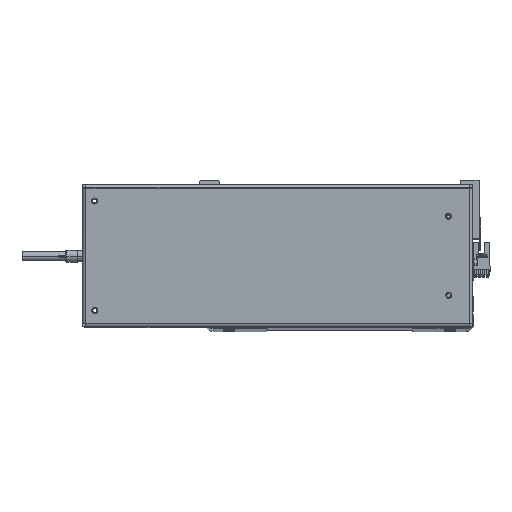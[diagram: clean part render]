
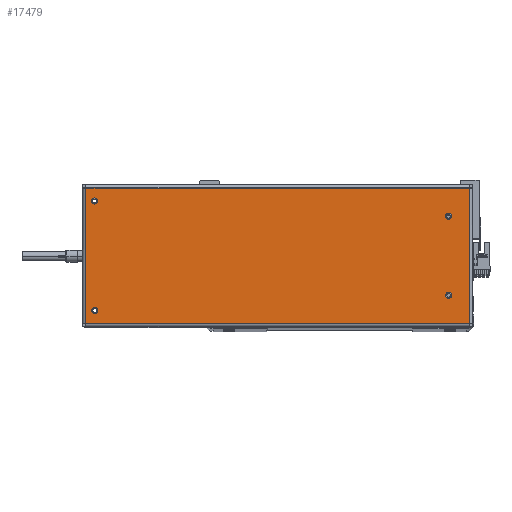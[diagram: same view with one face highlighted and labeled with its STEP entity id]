
A CAD part, top view. The second image highlights one B-rep face of the part: STEP entity #17479.
In plain terms, the highlighted planar face has unit normal (0, 0, 1).
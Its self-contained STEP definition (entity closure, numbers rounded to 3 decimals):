
#117 = EDGE_LOOP ( 'NONE', ( #26092, #19365 ) ) ;
#652 = DIRECTION ( 'NONE',  ( 0., -1., 0. ) ) ;
#727 = EDGE_LOOP ( 'NONE', ( #22752, #24264 ) ) ;
#971 = EDGE_CURVE ( 'NONE', #5345, #9199, #35661, .T. ) ;
#1350 = DIRECTION ( 'NONE',  ( 1., 0., 0. ) ) ;
#1364 = EDGE_CURVE ( 'NONE', #10330, #31053, #33187, .T. ) ;
#1560 = VERTEX_POINT ( 'NONE', #34394 ) ;
#1793 = CARTESIAN_POINT ( 'NONE',  ( 150.5, -45., 0. ) ) ;
#1839 = FACE_BOUND ( 'NONE', #21995, .T. ) ;
#2256 = EDGE_CURVE ( 'NONE', #9199, #5345, #27306, .T. ) ;
#3873 = CARTESIAN_POINT ( 'NONE',  ( 157.7, 58.5, 0. ) ) ;
#4072 = EDGE_CURVE ( 'NONE', #32882, #18946, #34296, .T. ) ;
#4257 = FACE_OUTER_BOUND ( 'NONE', #35158, .T. ) ;
#4297 = CARTESIAN_POINT ( 'NONE',  ( -157.6, 55.6, 0. ) ) ;
#5164 = LINE ( 'NONE', #6363, #11973 ) ;
#5345 = VERTEX_POINT ( 'NONE', #11635 ) ;
#5385 = VERTEX_POINT ( 'NONE', #35380 ) ;
#5607 = AXIS2_PLACEMENT_3D ( 'NONE', #3873, #25727, #22430 ) ;
#6274 = EDGE_CURVE ( 'NONE', #18946, #32882, #19625, .T. ) ;
#6363 = CARTESIAN_POINT ( 'NONE',  ( -157.7, -55.6, 0. ) ) ;
#7329 = DIRECTION ( 'NONE',  ( 0., 0., 1. ) ) ;
#7706 = VECTOR ( 'NONE', #32453, 1000. ) ;
#8120 = CARTESIAN_POINT ( 'NONE',  ( 150.5, 45., 0. ) ) ;
#8229 = CARTESIAN_POINT ( 'NONE',  ( 157.6, -55.6, 0. ) ) ;
#8232 = AXIS2_PLACEMENT_3D ( 'NONE', #8120, #20264, #1350 ) ;
#8594 = EDGE_CURVE ( 'NONE', #13478, #5385, #35084, .T. ) ;
#8665 = LINE ( 'NONE', #26368, #7706 ) ;
#9031 = CARTESIAN_POINT ( 'NONE',  ( -140.5, 32.5, 0. ) ) ;
#9199 = VERTEX_POINT ( 'NONE', #23833 ) ;
#9900 = CARTESIAN_POINT ( 'NONE',  ( -138., -32.5, 0. ) ) ;
#10121 = FACE_BOUND ( 'NONE', #727, .T. ) ;
#10330 = VERTEX_POINT ( 'NONE', #19416 ) ;
#10749 = EDGE_CURVE ( 'NONE', #1560, #23268, #25685, .T. ) ;
#11289 = ORIENTED_EDGE ( 'NONE', *, *, #33391, .F. ) ;
#11301 = EDGE_CURVE ( 'NONE', #19866, #22175, #11913, .T. ) ;
#11635 = CARTESIAN_POINT ( 'NONE',  ( 148., -45., 0. ) ) ;
#11759 = DIRECTION ( 'NONE',  ( 0., 0., 1. ) ) ;
#11913 = LINE ( 'NONE', #4297, #37789 ) ;
#11973 = VECTOR ( 'NONE', #15766, 1000. ) ;
#12809 = EDGE_LOOP ( 'NONE', ( #11289, #19843 ) ) ;
#13386 = DIRECTION ( 'NONE',  ( 1., 0., 0. ) ) ;
#13478 = VERTEX_POINT ( 'NONE', #37844 ) ;
#13713 = DIRECTION ( 'NONE',  ( 1., 0., 0. ) ) ;
#14104 = CARTESIAN_POINT ( 'NONE',  ( -157.6, -55.6, 0. ) ) ;
#14429 = DIRECTION ( 'NONE',  ( 0., 0., 1. ) ) ;
#15453 = DIRECTION ( 'NONE',  ( 0., 0., 1. ) ) ;
#15766 = DIRECTION ( 'NONE',  ( 1., 0., 0. ) ) ;
#16898 = EDGE_CURVE ( 'NONE', #5385, #19866, #8665, .T. ) ;
#17479 = ADVANCED_FACE ( 'NONE', ( #10121, #31084, #1839, #22844, #4257 ), #22156, .F. ) ;
#18096 = EDGE_CURVE ( 'NONE', #22175, #13478, #5164, .T. ) ;
#18297 = DIRECTION ( 'NONE',  ( 1., 0., 0. ) ) ;
#18422 = DIRECTION ( 'NONE',  ( 0., 1., 0. ) ) ;
#18927 = AXIS2_PLACEMENT_3D ( 'NONE', #9031, #11759, #21321 ) ;
#18935 = EDGE_CURVE ( 'NONE', #31053, #10330, #31484, .T. ) ;
#18946 = VERTEX_POINT ( 'NONE', #9900 ) ;
#19059 = AXIS2_PLACEMENT_3D ( 'NONE', #19258, #37795, #13386 ) ;
#19258 = CARTESIAN_POINT ( 'NONE',  ( -140.5, -32.5, 0. ) ) ;
#19365 = ORIENTED_EDGE ( 'NONE', *, *, #18935, .F. ) ;
#19416 = CARTESIAN_POINT ( 'NONE',  ( 153., 45., 0. ) ) ;
#19455 = DIRECTION ( 'NONE',  ( 0., 0., 1. ) ) ;
#19625 = CIRCLE ( 'NONE', #30613, 2.5 ) ;
#19843 = ORIENTED_EDGE ( 'NONE', *, *, #10749, .F. ) ;
#19866 = VERTEX_POINT ( 'NONE', #25110 ) ;
#20063 = AXIS2_PLACEMENT_3D ( 'NONE', #33928, #24599, #31237 ) ;
#20264 = DIRECTION ( 'NONE',  ( 0., 0., 1. ) ) ;
#21061 = AXIS2_PLACEMENT_3D ( 'NONE', #31456, #19455, #31323 ) ;
#21321 = DIRECTION ( 'NONE',  ( 1., 0., 0. ) ) ;
#21995 = EDGE_LOOP ( 'NONE', ( #32165, #26629 ) ) ;
#22156 = PLANE ( 'NONE',  #5607 ) ;
#22175 = VERTEX_POINT ( 'NONE', #14104 ) ;
#22430 = DIRECTION ( 'NONE',  ( -1., 0., 0. ) ) ;
#22752 = ORIENTED_EDGE ( 'NONE', *, *, #6274, .F. ) ;
#22844 = FACE_BOUND ( 'NONE', #117, .T. ) ;
#22932 = VECTOR ( 'NONE', #18422, 1000. ) ;
#23268 = VERTEX_POINT ( 'NONE', #37009 ) ;
#23833 = CARTESIAN_POINT ( 'NONE',  ( 153., -45., 0. ) ) ;
#24264 = ORIENTED_EDGE ( 'NONE', *, *, #4072, .F. ) ;
#24423 = CARTESIAN_POINT ( 'NONE',  ( 148., 45., 0. ) ) ;
#24599 = DIRECTION ( 'NONE',  ( 0., 0., 1. ) ) ;
#24856 = ORIENTED_EDGE ( 'NONE', *, *, #18096, .T. ) ;
#25110 = CARTESIAN_POINT ( 'NONE',  ( -157.6, 55.6, 0. ) ) ;
#25685 = CIRCLE ( 'NONE', #20063, 2.5 ) ;
#25727 = DIRECTION ( 'NONE',  ( 0., 0., -1. ) ) ;
#26092 = ORIENTED_EDGE ( 'NONE', *, *, #1364, .F. ) ;
#26368 = CARTESIAN_POINT ( 'NONE',  ( 157.7, 55.6, 0. ) ) ;
#26629 = ORIENTED_EDGE ( 'NONE', *, *, #971, .F. ) ;
#26702 = ORIENTED_EDGE ( 'NONE', *, *, #11301, .T. ) ;
#27306 = CIRCLE ( 'NONE', #21061, 2.5 ) ;
#27334 = AXIS2_PLACEMENT_3D ( 'NONE', #1793, #14429, #29833 ) ;
#27560 = CARTESIAN_POINT ( 'NONE',  ( -143., -32.5, 0. ) ) ;
#29403 = CARTESIAN_POINT ( 'NONE',  ( 150.5, 45., 0. ) ) ;
#29833 = DIRECTION ( 'NONE',  ( 1., 0., 0. ) ) ;
#30613 = AXIS2_PLACEMENT_3D ( 'NONE', #31126, #15453, #18297 ) ;
#31053 = VERTEX_POINT ( 'NONE', #24423 ) ;
#31084 = FACE_BOUND ( 'NONE', #12809, .T. ) ;
#31126 = CARTESIAN_POINT ( 'NONE',  ( -140.5, -32.5, 0. ) ) ;
#31237 = DIRECTION ( 'NONE',  ( 1., 0., 0. ) ) ;
#31323 = DIRECTION ( 'NONE',  ( 1., 0., 0. ) ) ;
#31456 = CARTESIAN_POINT ( 'NONE',  ( 150.5, -45., 0. ) ) ;
#31484 = CIRCLE ( 'NONE', #33602, 2.5 ) ;
#32165 = ORIENTED_EDGE ( 'NONE', *, *, #2256, .F. ) ;
#32453 = DIRECTION ( 'NONE',  ( -1., 0., 0. ) ) ;
#32882 = VERTEX_POINT ( 'NONE', #27560 ) ;
#33187 = CIRCLE ( 'NONE', #8232, 2.5 ) ;
#33391 = EDGE_CURVE ( 'NONE', #23268, #1560, #36088, .T. ) ;
#33602 = AXIS2_PLACEMENT_3D ( 'NONE', #29403, #7329, #13713 ) ;
#33926 = ORIENTED_EDGE ( 'NONE', *, *, #16898, .T. ) ;
#33928 = CARTESIAN_POINT ( 'NONE',  ( -140.5, 32.5, 0. ) ) ;
#34296 = CIRCLE ( 'NONE', #19059, 2.5 ) ;
#34394 = CARTESIAN_POINT ( 'NONE',  ( -143., 32.5, 0. ) ) ;
#35084 = LINE ( 'NONE', #8229, #22932 ) ;
#35158 = EDGE_LOOP ( 'NONE', ( #26702, #24856, #38759, #33926 ) ) ;
#35380 = CARTESIAN_POINT ( 'NONE',  ( 157.6, 55.6, 0. ) ) ;
#35661 = CIRCLE ( 'NONE', #27334, 2.5 ) ;
#36088 = CIRCLE ( 'NONE', #18927, 2.5 ) ;
#37009 = CARTESIAN_POINT ( 'NONE',  ( -138., 32.5, 0. ) ) ;
#37789 = VECTOR ( 'NONE', #652, 1000. ) ;
#37795 = DIRECTION ( 'NONE',  ( 0., 0., 1. ) ) ;
#37844 = CARTESIAN_POINT ( 'NONE',  ( 157.6, -55.6, 0. ) ) ;
#38759 = ORIENTED_EDGE ( 'NONE', *, *, #8594, .T. ) ;
